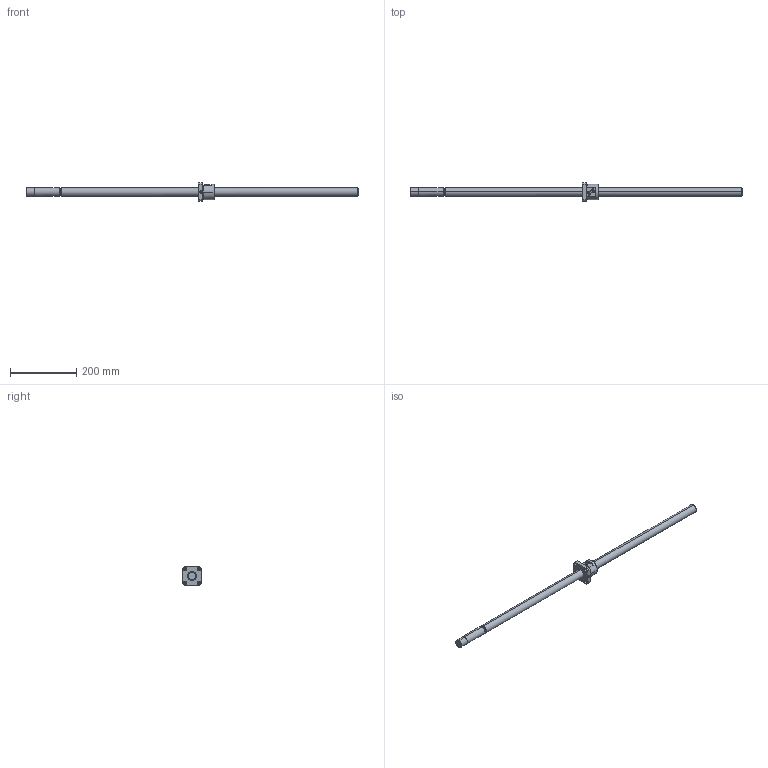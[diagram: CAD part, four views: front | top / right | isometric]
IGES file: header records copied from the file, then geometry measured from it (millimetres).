
Global section: file name: No Iges File Name specified; native system: AutoDesk Inventor R10; preprocessor: AutoDesk Inventor Iges Exporter R10; author: No Author specified; organization: No Organization specified; date: 20101224.141722; units: millimetre
Bounding box: 1000 x 57 x 57 mm (x, y, z)
Surface area: 98702.4 mm2 (no closed solid volume)
Topology: 0 solids, 0 shells, 128 faces, 994 edges, 994 vertices
Faces by surface type: bspline 128
